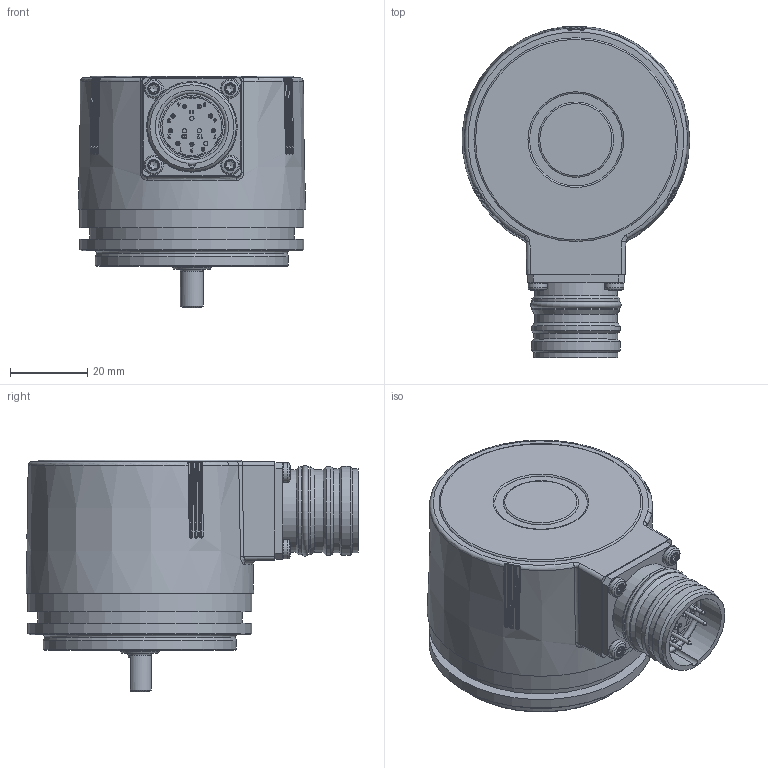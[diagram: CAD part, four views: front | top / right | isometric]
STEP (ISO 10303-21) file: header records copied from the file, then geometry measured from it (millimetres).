
FILE_DESCRIPTION(/* description */ ('Unknown'),/* implementation_level */ '2;1');
FILE_NAME(/* name */ 'EN580E.ML-SU06.G$$x.xxxxx',/* time_stamp */ '2023-09-28T08:31:59+02:00',/* author */ ('Unknown'),/* organization */ ('Baumer'),/* preprocessor_version */ 'ST-DEVELOPER v16.7',/* originating_system */ 'Solid Edge',/* authorisation */ 'Unknown');
FILE_SCHEMA (('AUTOMOTIVE_DESIGN {1 0 10303 214 3 1 1}'));
Length unit declared in the file: millimetre
Products named in the file (1): EN580E.ML-SU06.G$$x.xxxxx
Bounding box: 58.94 x 85.98 x 60.05 mm (x, y, z)
Surface area: 19875.8 mm2 (no closed solid volume)
Topology: 0 solids, 1 shells, 626 faces, 1563 edges, 1002 vertices
Faces by surface type: plane 195, bspline 183, cylinder 179, cone 38, torus 27, sphere 4
Full cylindrical faces by diameter (mm): 1.016 x8, 1.1 x12, 3.242 x3, 5 x4, 6 x1, 10 x1, 13.6 x1, 16.2 x1, 20 x1, 20.5 x2, 21.4 x2, 21.74 x2, 22.6 x1, 22.85 x2, 23 x2, 26 x1, 50 x1, 53 x1, 57.975 x2
Entity records: 25628 total; most frequent: CARTESIAN_POINT 12896, ORIENTED_EDGE 2827, DIRECTION 2048, EDGE_CURVE 1425, VERTEX_POINT 975, AXIS2_PLACEMENT_3D 825, FACE_BOUND 806, EDGE_LOOP 799
